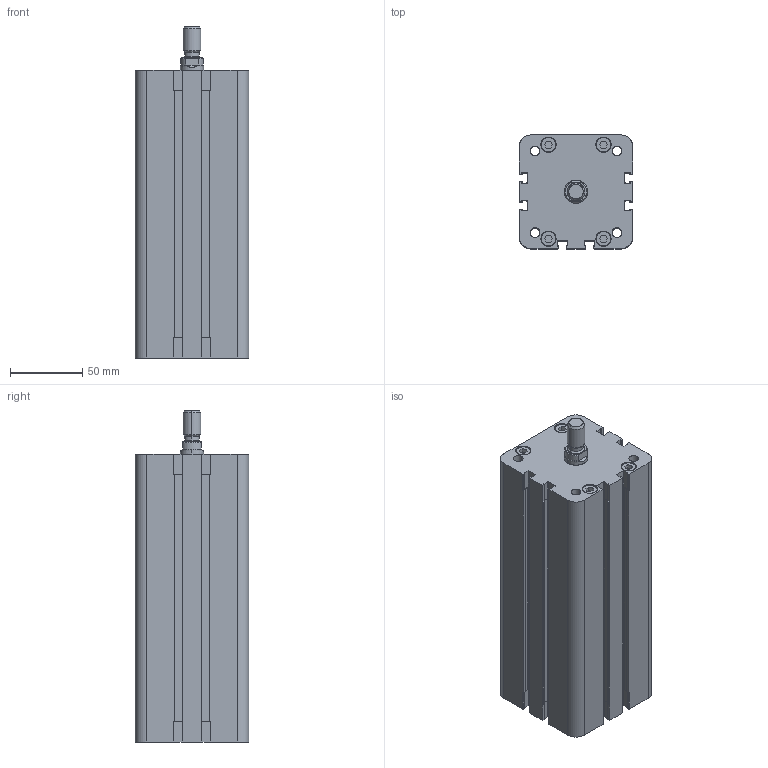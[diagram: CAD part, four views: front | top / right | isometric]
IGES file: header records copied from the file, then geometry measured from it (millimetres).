
Start section: SolidWorks IGES file using analytic representation for surfaces
Global section: file name: K:\Disegni Esecutivi\Cilindri\2_DISEGNI_cilindri_in_produzione\CILINDRO_ISO_21287\seconda versione cilindro 21287\2_CIL63\Complessivo W63\W63_PIENO\WFM063\WFM0630150A.igs; native system: SolidWorks 2011; preprocessor: SolidWorks 2011; author: Cad01; date: 120803.171519; units: millimetre
Bounding box: 78.5 x 78.5 x 229.5 mm (x, y, z)
Surface area: 109569.4 mm2 (no closed solid volume)
Topology: 0 solids, 0 shells, 464 faces, 5007 edges, 5007 vertices
Faces by surface type: bspline 235, revolution 229
